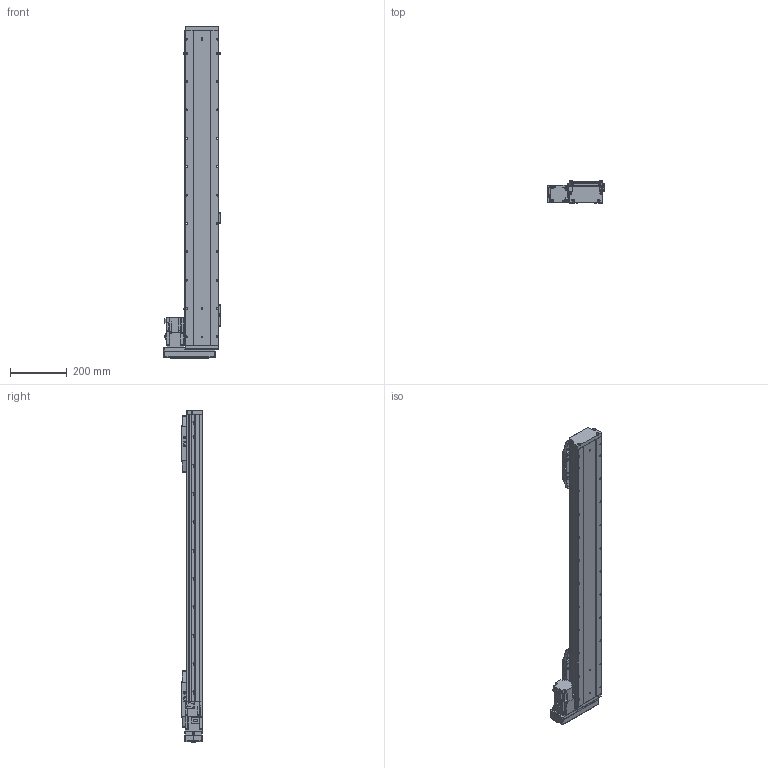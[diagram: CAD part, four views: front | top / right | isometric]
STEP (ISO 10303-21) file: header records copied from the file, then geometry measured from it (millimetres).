
FILE_DESCRIPTION (( 'STEP AP203' ), '1' );
FILE_NAME ('325.STEP', '2022-08-03T10:27:11', ( '' ), ( '' ), 'SwSTEP 2.0', 'SolidWorks 2016', '' );
FILE_SCHEMA (( 'CONFIG_CONTROL_DESIGN' ));
Length unit declared in the file: millimetre
Products named in the file (10): CTH12S-BL-01; CTH12-BL-02; CTH12S-BL-菁釱; 325; CTH12-BC-06; CTH12S-BC-07; CTH12S-BL-HZ; CTH12S-BL-05; CTH12S-BL-04; CTH12S-BL-T40
Assembly tree (15 placements, depth 2):
  325
    CTH12S-BL-菁釱
    CTH12S-BL-01
    CTH12S-BL-04
    CTH12S-BL-05  x2
    CTH12S-BL-HZ  x2
    CTH12S-BL-T40
    CTH12-BL-02
    CTH12S-BC-07  x3
    CTH12-BC-06  x3
Bounding box: 199.2 x 76 x 1170.5 mm (x, y, z)
Volume: 7889925.6 mm3; surface area: 816188.7 mm2
Topology: 36 solids, 36 shells, 2564 faces, 6669 edges, 4228 vertices
Faces by surface type: plane 1337, cylinder 742, cone 294, bspline 180, torus 7, sphere 4
Entity records: 61574 total; most frequent: CARTESIAN_POINT 17430, ORIENTED_EDGE 9072, DIRECTION 8657, EDGE_CURVE 4536, VERTEX_POINT 2926, AXIS2_PLACEMENT_3D 2900, VECTOR 2857, LINE 2857
